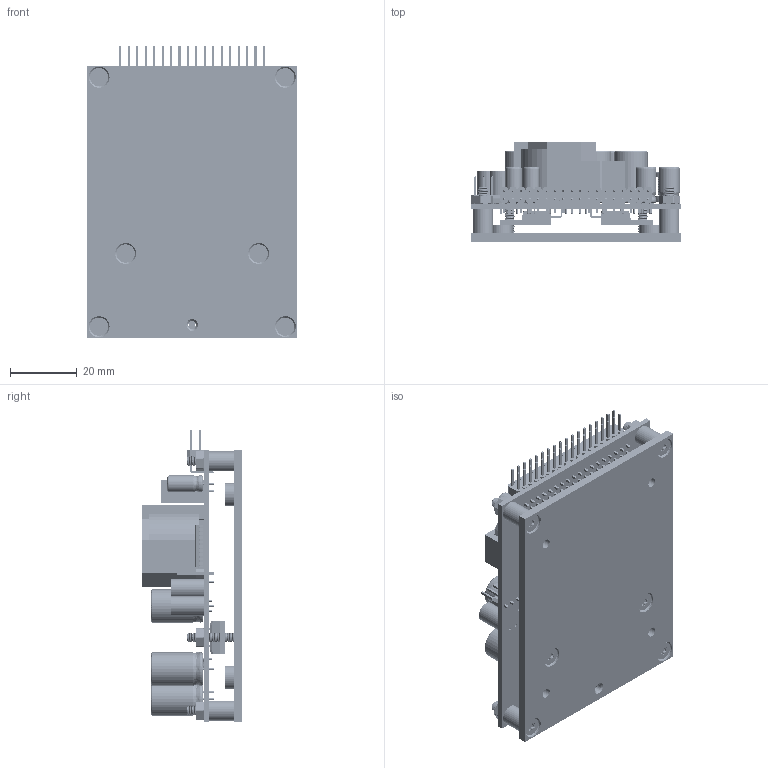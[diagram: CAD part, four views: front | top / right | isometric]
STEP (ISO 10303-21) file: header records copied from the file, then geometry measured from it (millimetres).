
FILE_DESCRIPTION (( 'STEP AP214' ), '1' );
FILE_NAME ('NC500_01xx.STEP', '2016-07-22T11:39:16', ( '' ), ( '' ), 'SwSTEP 2.0', 'SolidWorks 2014', '' );
FILE_SCHEMA (( 'AUTOMOTIVE_DESIGN' ));
Length unit declared in the file: millimetre
Products named in the file (8): Hsink SAA6L8W0H2T1; Nut M3 DIN934; Spacer 3.5x6x7.3mm ALU Hansong; PCB NC500OEM V1; NC500_01xx; Bolt M3x16 Countersunk TX Zinc; Push-in nut - Metric M3; Hsink SAA6L8W0H2T3
Assembly tree (23 placements, depth 3):
  NC500_01xx
    PCB NC500OEM V1
    Hsink SAA6L8W0H2T3
      Hsink SAA6L8W0H2T1
      Push-in nut - Metric M3  x4
    Spacer 3.5x6x7.3mm ALU Hansong  x4
    Bolt M3x16 Countersunk TX Zinc  x6
    Nut M3 DIN934  x6
Bounding box: 63.1 x 30 x 87.98 mm (x, y, z)
Volume: 14376.7 mm3; surface area: 41511.8 mm2
Topology: 21 solids, 211 shells, 3774 faces, 10008 edges, 6297 vertices
Faces by surface type: plane 1199, cylinder 1069, cone 898, bspline 603, sphere 5
Entity records: 100515 total; most frequent: CARTESIAN_POINT 24070, DIRECTION 11697, ORIENTED_EDGE 10666, EDGE_CURVE 6378, VERTEX_POINT 4362, LINE 4137, VECTOR 4137, AXIS2_PLACEMENT_3D 3780
